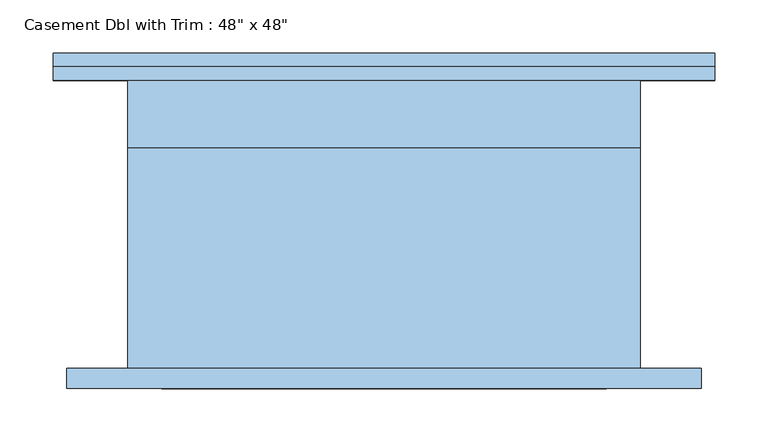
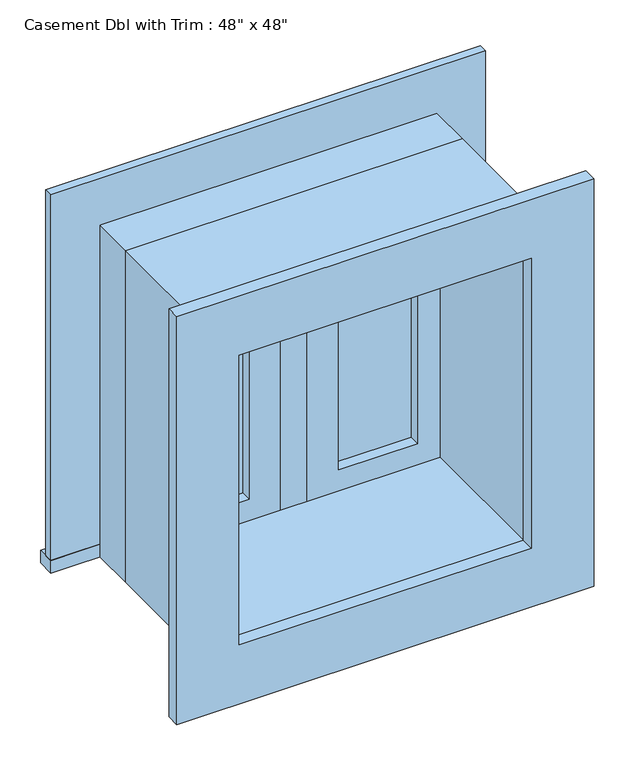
"""IFC4 building model written with IfcOpenShell, lengths in millimetres: window geometry."""

from ifc_helpers import new_model, si_unit, frame, origin, place, context, project, spatial, polyline, outline, extrude, source, transform, mapped, element, save


def window_f16435bf(model_context):
    return source(origin(), model_context, "Body", "SweptSolid", [
        extrude(outline(polyline([(63.5, 119.125), (176.5, 119.125), (176.5, 106.425), (63.5, 106.425), (63.5, 119.125)])), frame((0.0, 0.0, 977.9), z_axis=(0.0, 0.0, 1.0), x_axis=(1.0, 0.0, 0.0)), (0.0, 0.0, 1.0), 373.0),
        extrude(outline(polyline([(1395.35, 19.05), (933.45, 19.05), (933.45, 220.95), (1395.35, 220.95), (1395.35, 19.05)]), holes=[polyline([(1350.9, 63.5), (1350.9, 176.5), (977.9, 176.5), (977.9, 63.5), (1350.9, 63.5)])]), frame((0.0, 90.55, 0.0), z_axis=(0.0, 1.0, 0.0), x_axis=(0.0, 0.0, 1.0)), (0.0, 0.0, 1.0), 44.45),
        extrude(outline(polyline([(19.05, 90.55), (-19.05, 90.55), (-19.05, 154.05), (19.05, 154.05), (19.05, 90.55)])), frame((0.0, 0.0, 933.45), z_axis=(0.0, 0.0, 1.0), x_axis=(1.0, 0.0, 0.0)), (0.0, 0.0, 1.0), 461.9),
        extrude(outline(polyline([(-309.85, 179.45), (309.85, 179.45), (309.85, 154.05), (-309.85, 154.05), (-309.85, 179.45)])), frame((0.0, 0.0, 914.4), z_axis=(0.0, 0.0, 1.0), x_axis=(1.0, 0.0, 0.0)), (0.0, 0.0, 1.0), 19.05),
        extrude(outline(polyline([(1395.35, -220.95), (1395.35, 220.95), (933.45, 220.95), (933.45, 309.85), (1484.25, 309.85), (1484.25, -309.85), (933.45, -309.85), (933.45, -220.95), (1395.35, -220.95)])), frame((0.0, 154.05, 0.0), z_axis=(0.0, 1.0, 0.0), x_axis=(0.0, 0.0, 1.0)), (0.0, 0.0, 1.0), 12.7),
        extrude(outline(polyline([(1471.55, 297.15), (1471.55, -297.15), (857.25, -297.15), (857.25, 297.15), (1471.55, 297.15)]), holes=[polyline([(1382.65, 208.25), (946.15, 208.25), (946.15, -208.25), (1382.65, -208.25), (1382.65, 208.25)])]), frame((0.0, -135.0, 0.0), z_axis=(0.0, 1.0, 0.0), x_axis=(0.0, 0.0, 1.0)), (0.0, 0.0, 1.0), 19.05),
        extrude(outline(polyline([(-63.5, 106.425), (-176.5, 106.425), (-176.5, 119.125), (-63.5, 119.125), (-63.5, 106.425)])), frame((0.0, 0.0, 977.9), z_axis=(0.0, 0.0, 1.0), x_axis=(1.0, 0.0, 0.0)), (0.0, 0.0, 1.0), 373.0),
        extrude(outline(polyline([(1395.35, -220.95), (933.45, -220.95), (933.45, -19.05), (1395.35, -19.05), (1395.35, -220.95)]), holes=[polyline([(1350.9, -176.5), (1350.9, -63.5), (977.9, -63.5), (977.9, -176.5), (1350.9, -176.5)])]), frame((0.0, 90.55, 0.0), z_axis=(0.0, 1.0, 0.0), x_axis=(0.0, 0.0, 1.0)), (0.0, 0.0, 1.0), 44.45),
        extrude(outline(polyline([(1414.4, -240.0), (914.4, -240.0), (914.4, 240.0), (1414.4, 240.0), (1414.4, -240.0)]), holes=[polyline([(1382.65, -208.25), (1382.65, 208.25), (946.15, 208.25), (946.15, -208.25), (1382.65, -208.25)])]), frame((0.0, -115.95, 0.0), z_axis=(0.0, 1.0, 0.0), x_axis=(0.0, 0.0, 1.0)), (0.0, 0.0, 1.0), 206.5),
        extrude(outline(polyline([(1414.4, 240.0), (1414.4, -240.0), (914.4, -240.0), (914.4, 240.0), (1414.4, 240.0)]), holes=[polyline([(1395.35, 220.95), (933.45, 220.95), (933.45, -220.95), (1395.35, -220.95), (1395.35, 220.95)])]), frame((0.0, 90.55, 0.0), z_axis=(0.0, 1.0, 0.0), x_axis=(0.0, 0.0, 1.0)), (0.0, 0.0, 1.0), 63.5),
    ])


if __name__ == "__main__":
    model = new_model("IFC4")
    model_context = context("Model", 3, world=origin())
    ifc_project = project(units=[si_unit("LENGTHUNIT", "METRE", prefix="MILLI")], contexts=[model_context])
    site = spatial("IfcSite", under=ifc_project)
    building = spatial("IfcBuilding", under=site)
    placement = place(None, origin())
    window_shape = window_f16435bf(model_context)
    element("IfcWindow", 1, ObjectType="Casement Dbl with Trim : 48\" x 48\"", at=placement, inside=building, context=model_context, shape_type="MappedRepresentation", body=[
        mapped(window_shape, transform((0.0, 0.0, 0.0), x_axis=(1.0, 0.0, 0.0), y_axis=(0.0, 1.0, 0.0), z_axis=(0.0, 0.0, 1.0))),
    ])
    save(model, "model.ifc")
